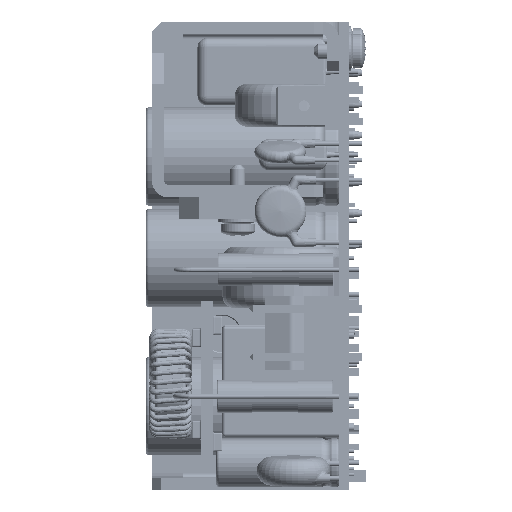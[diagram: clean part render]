
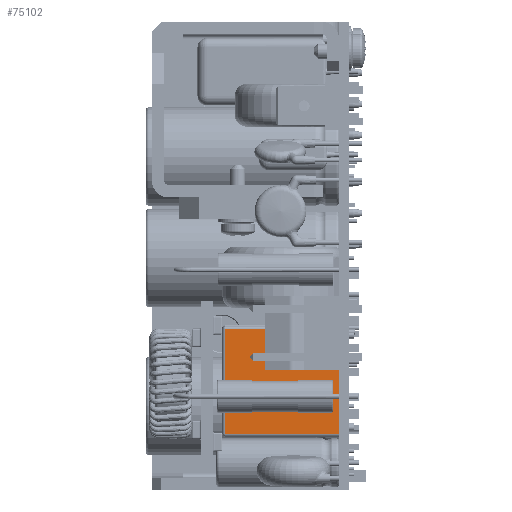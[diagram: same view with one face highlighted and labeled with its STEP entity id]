
A CAD part, left-side view. The second image highlights one B-rep face of the part: STEP entity #75102.
In plain terms, the highlighted planar face has unit normal (-1, 0, 0).
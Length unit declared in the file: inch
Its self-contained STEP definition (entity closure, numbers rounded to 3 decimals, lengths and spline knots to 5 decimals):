
#2546 = VECTOR ( 'NONE', #105656, 39.37008 ) ;
#3338 = VECTOR ( 'NONE', #15942, 39.37008 ) ;
#5534 = CARTESIAN_POINT ( 'NONE',  ( -0.21654, 0., -0.35433 ) ) ;
#8950 = VECTOR ( 'NONE', #131106, 39.37008 ) ;
#15942 = DIRECTION ( 'NONE',  ( 0., 0., 1. ) ) ;
#24682 = VERTEX_POINT ( 'NONE', #89810 ) ;
#26671 = CARTESIAN_POINT ( 'NONE',  ( -0.21654, 0.74803, -0.35433 ) ) ;
#29983 = CARTESIAN_POINT ( 'NONE',  ( -0.21654, 0.74803, 0.33465 ) ) ;
#37546 = DIRECTION ( 'NONE',  ( 0., 0., -1. ) ) ;
#50027 = VERTEX_POINT ( 'NONE', #83291 ) ;
#53832 = ORIENTED_EDGE ( 'NONE', *, *, #83673, .T. ) ;
#55209 = CARTESIAN_POINT ( 'NONE',  ( -0.21654, 0.74803, -0.33465 ) ) ;
#59996 = FACE_OUTER_BOUND ( 'NONE', #118932, .T. ) ;
#60258 = CARTESIAN_POINT ( 'NONE',  ( -0.21654, 0.72835, 0.33465 ) ) ;
#64297 = VERTEX_POINT ( 'NONE', #140077 ) ;
#64734 = EDGE_CURVE ( 'NONE', #50027, #64297, #115143, .T. ) ;
#68416 = AXIS2_PLACEMENT_3D ( 'NONE', #26671, #102372, #37546 ) ;
#73387 = VECTOR ( 'NONE', #117414, 39.37008 ) ;
#75102 = ADVANCED_FACE ( 'NONE', ( #59996 ), #87731, .F. ) ;
#83291 = CARTESIAN_POINT ( 'NONE',  ( -0.21654, 0., -0.33465 ) ) ;
#83673 = EDGE_CURVE ( 'NONE', #84475, #24682, #131135, .T. ) ;
#84475 = VERTEX_POINT ( 'NONE', #60258 ) ;
#85471 = LINE ( 'NONE', #29983, #2546 ) ;
#87731 = PLANE ( 'NONE',  #68416 ) ;
#89810 = CARTESIAN_POINT ( 'NONE',  ( -0.21654, 0.72835, -0.33465 ) ) ;
#96119 = EDGE_CURVE ( 'NONE', #64297, #84475, #85471, .T. ) ;
#97434 = ORIENTED_EDGE ( 'NONE', *, *, #64734, .T. ) ;
#98752 = LINE ( 'NONE', #55209, #8950 ) ;
#102372 = DIRECTION ( 'NONE',  ( 1., 0., 0. ) ) ;
#105656 = DIRECTION ( 'NONE',  ( 0., 1., 0. ) ) ;
#107738 = EDGE_CURVE ( 'NONE', #24682, #50027, #98752, .T. ) ;
#113810 = ORIENTED_EDGE ( 'NONE', *, *, #107738, .T. ) ;
#115143 = LINE ( 'NONE', #5534, #3338 ) ;
#117414 = DIRECTION ( 'NONE',  ( 0., 0., -1. ) ) ;
#118932 = EDGE_LOOP ( 'NONE', ( #97434, #123467, #53832, #113810 ) ) ;
#123467 = ORIENTED_EDGE ( 'NONE', *, *, #96119, .T. ) ;
#128320 = CARTESIAN_POINT ( 'NONE',  ( -0.21654, 0.72835, -0.35433 ) ) ;
#131106 = DIRECTION ( 'NONE',  ( 0., -1., 0. ) ) ;
#131135 = LINE ( 'NONE', #128320, #73387 ) ;
#140077 = CARTESIAN_POINT ( 'NONE',  ( -0.21654, 0., 0.33465 ) ) ;
